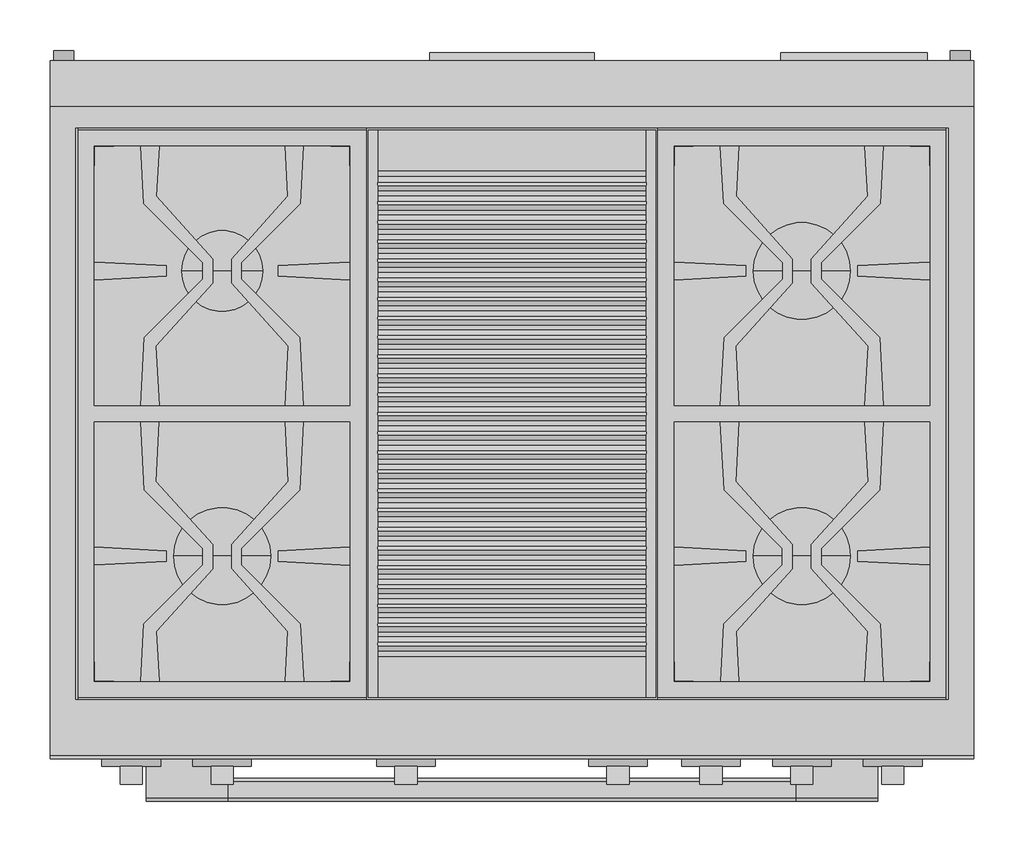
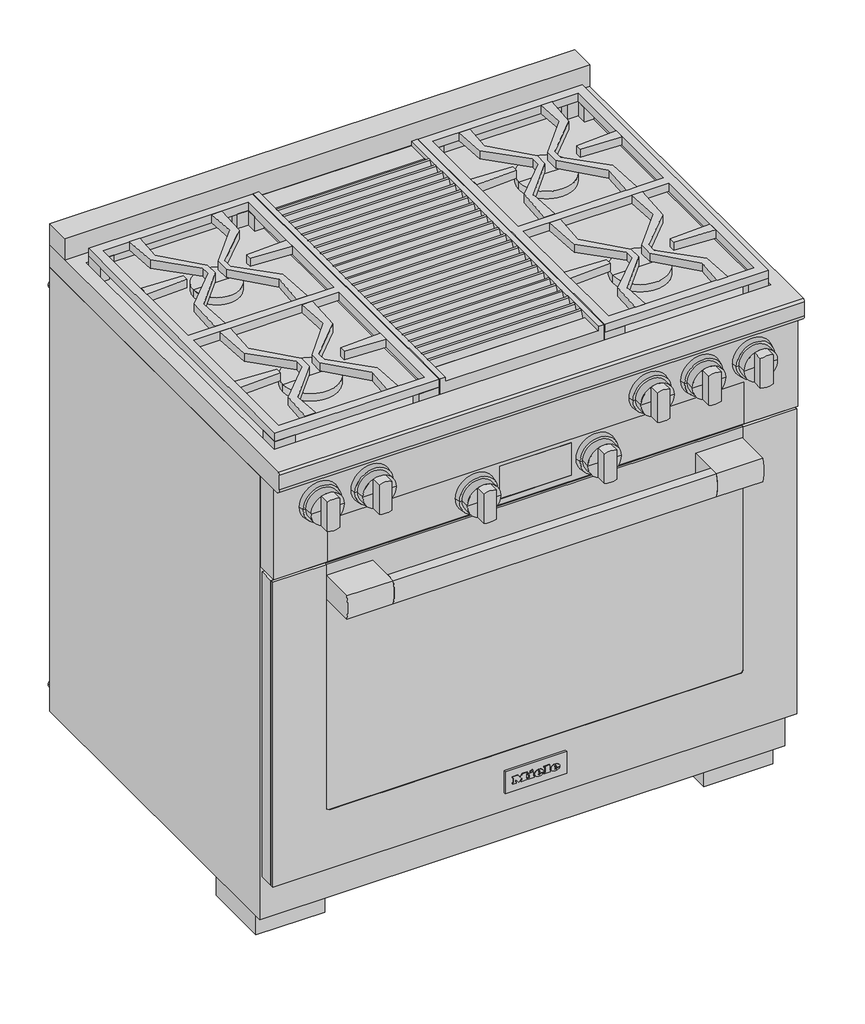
# Not in any storey: 1 proxy.
"""IFC4 building model written with IfcOpenShell, lengths in millimetres."""

from ifc_helpers import new_model, si_unit, origin, place, context, project, spatial, transform, mapped, element, save
from components import specialty_equipment_83be52f8, specialty_equipment_633da77a

model = new_model("IFC4")

# Units and contexts
model_context = context("Model", 3, world=origin())
ifc_project = project(units=[si_unit("LENGTHUNIT", "METRE", prefix="MILLI")], contexts=[model_context])

# Site, building
site = spatial("IfcSite", under=ifc_project)
building = spatial("IfcBuilding", under=site)

# Proxy
placement = place(None, origin())
specialty_equipment_shape = specialty_equipment_83be52f8(model_context)
specialty_equipment_2_shape = specialty_equipment_633da77a(model_context)
element("IfcBuildingElementProxy", 1, Name="11791450_USA_HR1135-3G_EDST-CLST : 25113581_USA_11791450_HR1135-3G_EDST-CLST", ObjectType="11791450_USA_HR1135-3G_EDST-CLST : 25113581_USA_11791450_HR1135-3G_EDST-CLST", at=placement, inside=building, context=model_context, shape_type="MappedRepresentation", body=[
    mapped(specialty_equipment_shape, transform((0.0, 0.0, 0.0), x_axis=(1.0, 0.0, 0.0), y_axis=(0.0, 1.0, 0.0), z_axis=(0.0, 0.0, 1.0))),
    mapped(specialty_equipment_2_shape, transform((0.0, 0.0, 0.0), x_axis=(1.0, 0.0, 0.0), y_axis=(0.0, 1.0, 0.0), z_axis=(0.0, 0.0, 1.0))),
])

save(model, "model.ifc")
